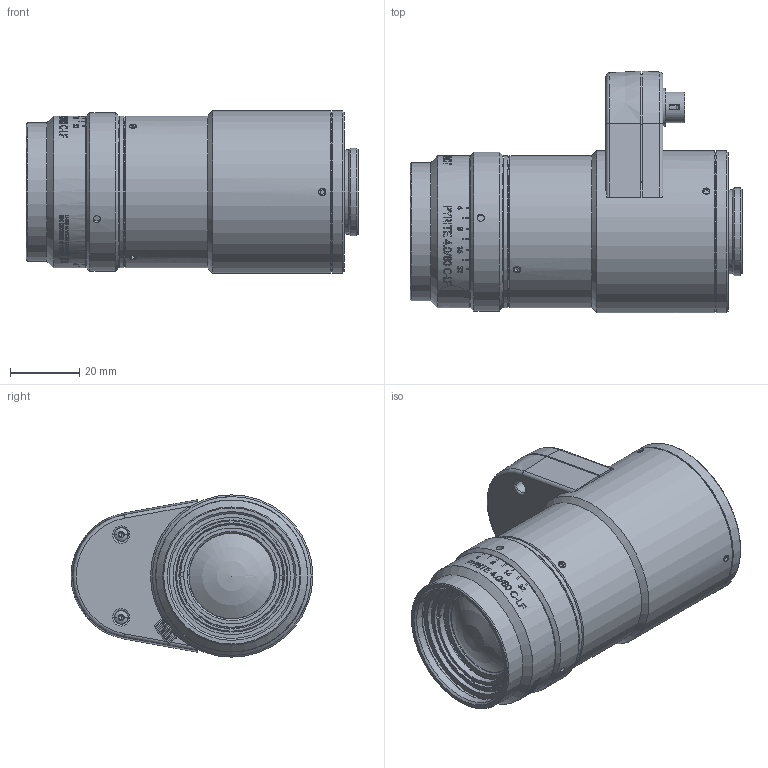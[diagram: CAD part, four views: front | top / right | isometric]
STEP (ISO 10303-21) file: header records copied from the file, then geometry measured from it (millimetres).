
FILE_DESCRIPTION(/* description */ (''),/* implementation_level */ '2;1');
FILE_NAME(/* name */ '1102609_00170746_001.stp',/* time_stamp */ '2022-09-23T08:14:30+02:00',/* author */ (''),/* organization */ (''),/* preprocessor_version */ 'ST-DEVELOPER v16',/* originating_system */ 'SIEMENS PLM Software NX 10.0',/* authorisation */ '');
FILE_SCHEMA (('AP203_CONFIGURATION_CONTROLLED_3D_DESIGN_OF_MECHANICAL_PARTS_AND_ASSEMBLIES_MIM_LF { 1 0 10303 403 2 1 2}'));
Length unit declared in the file: millimetre
Products named in the file (1): Froe5ADCF512ndn9
Bounding box: 96.13 x 70 x 47 mm (x, y, z)
Volume: 119096.8 mm3; surface area: 36102.6 mm2
Topology: 9 solids, 11 shells, 1236 faces, 3548 edges, 2515 vertices
Faces by surface type: plane 538, cylinder 457, cone 126, bspline 58, torus 51, sphere 6
Full cylindrical faces by diameter (mm): 1.6 x2, 2 x2, 2.05 x9, 3.8 x1, 23.2 x1, 24.4 x1, 24.8 x1, 25.4 x1, 26 x1, 27.8 x1, 29 x1, 29.7 x1, 29.96 x1, 34 x1, 36.2 x1, 37.3 x1, 38 x2, 39 x1, 39.2 x1, 39.5 x1, 40 x2, 40.3 x1, 41.5 x1, 42 x1, 44 x3, 44.01 x1, 45.499 x1, 46 x2, 47 x2
Entity records: 46712 total; most frequent: CARTESIAN_POINT 15959, ORIENTED_EDGE 6827, DIRECTION 5495, EDGE_CURVE 3428, VERTEX_POINT 2487, AXIS2_PLACEMENT_3D 2035, EDGE_LOOP 1546, LINE 1425
